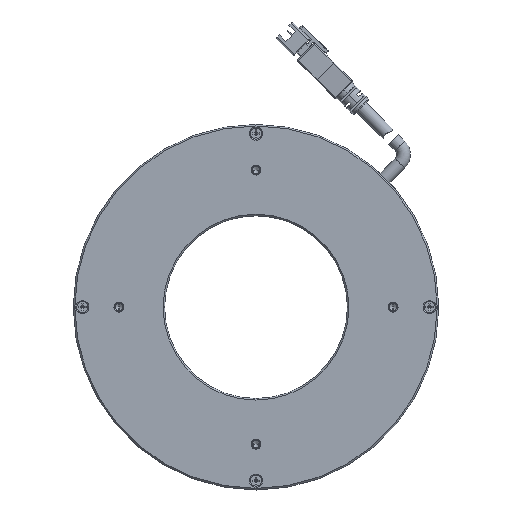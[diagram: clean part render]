
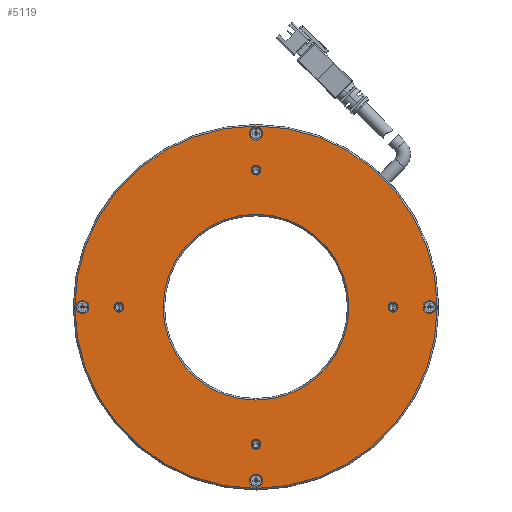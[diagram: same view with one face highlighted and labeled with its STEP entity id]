
A CAD part, top view. The second image highlights one B-rep face of the part: STEP entity #5119.
In plain terms, the highlighted planar face has unit normal (0, 0, 1).
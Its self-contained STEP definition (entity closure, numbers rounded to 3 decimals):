
#475=CARTESIAN_POINT('',(0.,0.,2.));
#476=DIRECTION('',(0.,0.,-1.));
#477=DIRECTION('',(-1.,0.,0.));
#478=AXIS2_PLACEMENT_3D('',#475,#476,#477);
#480=CARTESIAN_POINT('',(0.,0.,2.));
#481=DIRECTION('',(0.,0.,-1.));
#482=DIRECTION('',(1.,0.,0.));
#483=AXIS2_PLACEMENT_3D('',#480,#481,#482);
#485=CARTESIAN_POINT('',(0.,45.,2.));
#486=DIRECTION('',(0.,0.,-1.));
#487=DIRECTION('',(-1.,0.,0.));
#488=AXIS2_PLACEMENT_3D('',#485,#486,#487);
#490=CARTESIAN_POINT('',(0.,45.,2.));
#491=DIRECTION('',(0.,0.,-1.));
#492=DIRECTION('',(1.,0.,0.));
#493=AXIS2_PLACEMENT_3D('',#490,#491,#492);
#495=CARTESIAN_POINT('',(-45.,0.,2.));
#496=DIRECTION('',(0.,0.,-1.));
#497=DIRECTION('',(0.,-1.,0.));
#498=AXIS2_PLACEMENT_3D('',#495,#496,#497);
#500=CARTESIAN_POINT('',(-45.,0.,2.));
#501=DIRECTION('',(0.,0.,-1.));
#502=DIRECTION('',(0.,1.,0.));
#503=AXIS2_PLACEMENT_3D('',#500,#501,#502);
#505=CARTESIAN_POINT('',(0.,-45.,2.));
#506=DIRECTION('',(0.,0.,-1.));
#507=DIRECTION('',(1.,0.,0.));
#508=AXIS2_PLACEMENT_3D('',#505,#506,#507);
#510=CARTESIAN_POINT('',(0.,-45.,2.));
#511=DIRECTION('',(0.,0.,-1.));
#512=DIRECTION('',(-1.,0.,0.));
#513=AXIS2_PLACEMENT_3D('',#510,#511,#512);
#515=CARTESIAN_POINT('',(45.,0.,2.));
#516=DIRECTION('',(0.,0.,-1.));
#517=DIRECTION('',(0.,1.,0.));
#518=AXIS2_PLACEMENT_3D('',#515,#516,#517);
#520=CARTESIAN_POINT('',(45.,0.,2.));
#521=DIRECTION('',(0.,0.,-1.));
#522=DIRECTION('',(0.,-1.,0.));
#523=AXIS2_PLACEMENT_3D('',#520,#521,#522);
#525=CARTESIAN_POINT('',(57.,0.,2.));
#526=DIRECTION('',(0.,0.,-1.));
#527=DIRECTION('',(-1.,0.,0.));
#528=AXIS2_PLACEMENT_3D('',#525,#526,#527);
#530=CARTESIAN_POINT('',(57.,0.,2.));
#531=DIRECTION('',(0.,0.,-1.));
#532=DIRECTION('',(1.,0.,0.));
#533=AXIS2_PLACEMENT_3D('',#530,#531,#532);
#535=CARTESIAN_POINT('',(0.,57.,2.));
#536=DIRECTION('',(0.,0.,-1.));
#537=DIRECTION('',(0.,-1.,0.));
#538=AXIS2_PLACEMENT_3D('',#535,#536,#537);
#540=CARTESIAN_POINT('',(0.,57.,2.));
#541=DIRECTION('',(0.,0.,-1.));
#542=DIRECTION('',(0.,1.,0.));
#543=AXIS2_PLACEMENT_3D('',#540,#541,#542);
#545=CARTESIAN_POINT('',(-57.,0.,2.));
#546=DIRECTION('',(0.,0.,-1.));
#547=DIRECTION('',(1.,0.,0.));
#548=AXIS2_PLACEMENT_3D('',#545,#546,#547);
#550=CARTESIAN_POINT('',(-57.,0.,2.));
#551=DIRECTION('',(0.,0.,-1.));
#552=DIRECTION('',(-1.,0.,0.));
#553=AXIS2_PLACEMENT_3D('',#550,#551,#552);
#555=CARTESIAN_POINT('',(0.,-57.,2.));
#556=DIRECTION('',(0.,0.,-1.));
#557=DIRECTION('',(0.,1.,0.));
#558=AXIS2_PLACEMENT_3D('',#555,#556,#557);
#560=CARTESIAN_POINT('',(0.,-57.,2.));
#561=DIRECTION('',(0.,0.,-1.));
#562=DIRECTION('',(0.,-1.,0.));
#563=AXIS2_PLACEMENT_3D('',#560,#561,#562);
#565=CARTESIAN_POINT('',(0.,0.,2.));
#566=DIRECTION('',(0.,0.,1.));
#567=DIRECTION('',(-1.,0.,0.));
#568=AXIS2_PLACEMENT_3D('',#565,#566,#567);
#570=CARTESIAN_POINT('',(0.,0.,2.));
#571=DIRECTION('',(0.,0.,1.));
#572=DIRECTION('',(1.,0.,0.));
#573=AXIS2_PLACEMENT_3D('',#570,#571,#572);
#3509=CARTESIAN_POINT('',(59.5,0.,2.));
#3510=CARTESIAN_POINT('',(-59.5,0.,2.));
#3511=VERTEX_POINT('',#3509);
#3512=VERTEX_POINT('',#3510);
#3513=CARTESIAN_POINT('',(0.,-59.15,2.));
#3514=CARTESIAN_POINT('',(0.,-54.85,2.));
#3515=VERTEX_POINT('',#3513);
#3516=VERTEX_POINT('',#3514);
#3517=CARTESIAN_POINT('',(-59.15,0.,2.));
#3518=CARTESIAN_POINT('',(-54.85,0.,2.));
#3519=VERTEX_POINT('',#3517);
#3520=VERTEX_POINT('',#3518);
#3521=CARTESIAN_POINT('',(0.,59.15,2.));
#3522=CARTESIAN_POINT('',(0.,54.85,2.));
#3523=VERTEX_POINT('',#3521);
#3524=VERTEX_POINT('',#3522);
#3525=CARTESIAN_POINT('',(59.15,0.,2.));
#3526=CARTESIAN_POINT('',(54.85,0.,2.));
#3527=VERTEX_POINT('',#3525);
#3528=VERTEX_POINT('',#3526);
#3529=CARTESIAN_POINT('',(45.,-1.625,2.));
#3530=CARTESIAN_POINT('',(45.,1.625,2.));
#3531=VERTEX_POINT('',#3529);
#3532=VERTEX_POINT('',#3530);
#3533=CARTESIAN_POINT('',(-1.625,-45.,2.));
#3534=CARTESIAN_POINT('',(1.625,-45.,2.));
#3535=VERTEX_POINT('',#3533);
#3536=VERTEX_POINT('',#3534);
#3537=CARTESIAN_POINT('',(-45.,1.625,2.));
#3538=CARTESIAN_POINT('',(-45.,-1.625,2.));
#3539=VERTEX_POINT('',#3537);
#3540=VERTEX_POINT('',#3538);
#3541=CARTESIAN_POINT('',(1.625,45.,2.));
#3542=CARTESIAN_POINT('',(-1.625,45.,2.));
#3543=VERTEX_POINT('',#3541);
#3544=VERTEX_POINT('',#3542);
#3545=CARTESIAN_POINT('',(30.5,0.,2.));
#3546=CARTESIAN_POINT('',(-30.5,0.,2.));
#3547=VERTEX_POINT('',#3545);
#3548=VERTEX_POINT('',#3546);
#5056=CARTESIAN_POINT('',(0.,0.,2.));
#5057=DIRECTION('',(0.,0.,-1.));
#5058=DIRECTION('',(-1.,0.,0.));
#5059=AXIS2_PLACEMENT_3D('',#5056,#5057,#5058);
#5060=PLANE('',#5059);
#5062=ORIENTED_EDGE('',*,*,#5061,.F.);
#5064=ORIENTED_EDGE('',*,*,#5063,.F.);
#5065=EDGE_LOOP('',(#5062,#5064));
#5066=FACE_OUTER_BOUND('',#5065,.F.);
#5068=ORIENTED_EDGE('',*,*,#5067,.F.);
#5070=ORIENTED_EDGE('',*,*,#5069,.F.);
#5071=EDGE_LOOP('',(#5068,#5070));
#5072=FACE_BOUND('',#5071,.F.);
#5074=ORIENTED_EDGE('',*,*,#5073,.F.);
#5076=ORIENTED_EDGE('',*,*,#5075,.F.);
#5077=EDGE_LOOP('',(#5074,#5076));
#5078=FACE_BOUND('',#5077,.F.);
#5080=ORIENTED_EDGE('',*,*,#5079,.F.);
#5082=ORIENTED_EDGE('',*,*,#5081,.F.);
#5083=EDGE_LOOP('',(#5080,#5082));
#5084=FACE_BOUND('',#5083,.F.);
#5086=ORIENTED_EDGE('',*,*,#5085,.F.);
#5088=ORIENTED_EDGE('',*,*,#5087,.F.);
#5089=EDGE_LOOP('',(#5086,#5088));
#5090=FACE_BOUND('',#5089,.F.);
#5092=ORIENTED_EDGE('',*,*,#5091,.F.);
#5094=ORIENTED_EDGE('',*,*,#5093,.F.);
#5095=EDGE_LOOP('',(#5092,#5094));
#5096=FACE_BOUND('',#5095,.F.);
#5098=ORIENTED_EDGE('',*,*,#5097,.F.);
#5100=ORIENTED_EDGE('',*,*,#5099,.F.);
#5101=EDGE_LOOP('',(#5098,#5100));
#5102=FACE_BOUND('',#5101,.F.);
#5104=ORIENTED_EDGE('',*,*,#5103,.F.);
#5106=ORIENTED_EDGE('',*,*,#5105,.F.);
#5107=EDGE_LOOP('',(#5104,#5106));
#5108=FACE_BOUND('',#5107,.F.);
#5110=ORIENTED_EDGE('',*,*,#5109,.F.);
#5112=ORIENTED_EDGE('',*,*,#5111,.F.);
#5113=EDGE_LOOP('',(#5110,#5112));
#5114=FACE_BOUND('',#5113,.F.);
#5115=ORIENTED_EDGE('',*,*,#5049,.F.);
#5116=ORIENTED_EDGE('',*,*,#5035,.F.);
#5117=EDGE_LOOP('',(#5115,#5116));
#5118=FACE_BOUND('',#5117,.F.);
#5119=ADVANCED_FACE('',(#5066,#5072,#5078,#5084,#5090,#5096,#5102,#5108,#5114,
#5118),#5060,.F.);
#479=CIRCLE('',#478,30.5);
#484=CIRCLE('',#483,30.5);
#489=CIRCLE('',#488,1.625);
#494=CIRCLE('',#493,1.625);
#499=CIRCLE('',#498,1.625);
#504=CIRCLE('',#503,1.625);
#509=CIRCLE('',#508,1.625);
#514=CIRCLE('',#513,1.625);
#519=CIRCLE('',#518,1.625);
#524=CIRCLE('',#523,1.625);
#529=CIRCLE('',#528,2.15);
#534=CIRCLE('',#533,2.15);
#539=CIRCLE('',#538,2.15);
#544=CIRCLE('',#543,2.15);
#549=CIRCLE('',#548,2.15);
#554=CIRCLE('',#553,2.15);
#559=CIRCLE('',#558,2.15);
#564=CIRCLE('',#563,2.15);
#569=CIRCLE('',#568,59.5);
#574=CIRCLE('',#573,59.5);
#5035=EDGE_CURVE('',#3547,#3548,#484,.T.);
#5049=EDGE_CURVE('',#3548,#3547,#479,.T.);
#5061=EDGE_CURVE('',#3512,#3511,#569,.T.);
#5063=EDGE_CURVE('',#3511,#3512,#574,.T.);
#5067=EDGE_CURVE('',#3544,#3543,#489,.T.);
#5069=EDGE_CURVE('',#3543,#3544,#494,.T.);
#5073=EDGE_CURVE('',#3540,#3539,#499,.T.);
#5075=EDGE_CURVE('',#3539,#3540,#504,.T.);
#5079=EDGE_CURVE('',#3536,#3535,#509,.T.);
#5081=EDGE_CURVE('',#3535,#3536,#514,.T.);
#5085=EDGE_CURVE('',#3532,#3531,#519,.T.);
#5087=EDGE_CURVE('',#3531,#3532,#524,.T.);
#5091=EDGE_CURVE('',#3528,#3527,#529,.T.);
#5093=EDGE_CURVE('',#3527,#3528,#534,.T.);
#5097=EDGE_CURVE('',#3524,#3523,#539,.T.);
#5099=EDGE_CURVE('',#3523,#3524,#544,.T.);
#5103=EDGE_CURVE('',#3520,#3519,#549,.T.);
#5105=EDGE_CURVE('',#3519,#3520,#554,.T.);
#5109=EDGE_CURVE('',#3516,#3515,#559,.T.);
#5111=EDGE_CURVE('',#3515,#3516,#564,.T.);
